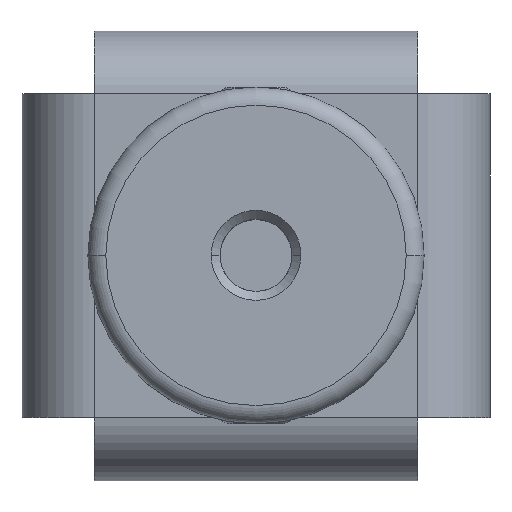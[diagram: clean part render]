
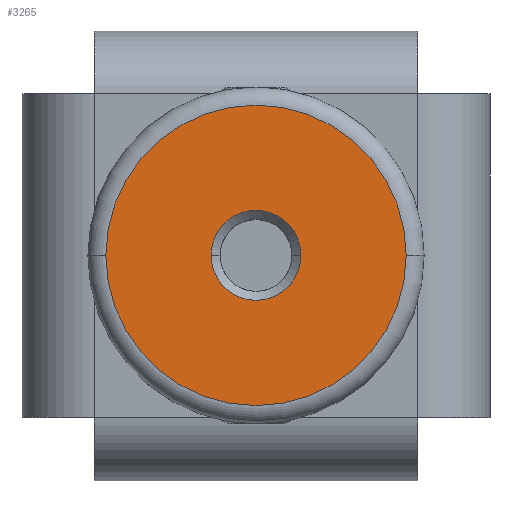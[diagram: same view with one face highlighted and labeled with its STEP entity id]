
A CAD part, top view. The second image highlights one B-rep face of the part: STEP entity #3265.
In plain terms, the highlighted planar face has unit normal (0, 0, 1).
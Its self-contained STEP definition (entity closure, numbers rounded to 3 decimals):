
#822 = DIRECTION ( 'NONE',  ( 1., 0., 0. ) ) ;
#824 = DIRECTION ( 'NONE',  ( 0., 0., -1. ) ) ;
#830 = CARTESIAN_POINT ( 'NONE',  ( 0., 0., 14. ) ) ;
#834 = PLANE ( 'NONE',  #2348 ) ;
#1068 = CIRCLE ( 'NONE', #2374, 8.35 ) ;
#1088 = FACE_BOUND ( 'NONE', #1597, .T. ) ;
#1209 = FACE_OUTER_BOUND ( 'NONE', #1696, .T. ) ;
#1440 = CIRCLE ( 'NONE', #2375, 2.5 ) ;
#1530 = CIRCLE ( 'NONE', #2421, 8.35 ) ;
#1544 = CIRCLE ( 'NONE', #2449, 2.5 ) ;
#1597 = EDGE_LOOP ( 'NONE', ( #3564, #3550 ) ) ;
#1696 = EDGE_LOOP ( 'NONE', ( #3382, #3532 ) ) ;
#1726 = VERTEX_POINT ( 'NONE', #3680 ) ;
#1833 = VERTEX_POINT ( 'NONE', #3658 ) ;
#1842 = VERTEX_POINT ( 'NONE', #3746 ) ;
#1940 = VERTEX_POINT ( 'NONE', #2958 ) ;
#2348 = AXIS2_PLACEMENT_3D ( 'NONE', #830, #824, #822 ) ;
#2374 = AXIS2_PLACEMENT_3D ( 'NONE', #4134, #4133, #4132 ) ;
#2375 = AXIS2_PLACEMENT_3D ( 'NONE', #4137, #4136, #4135 ) ;
#2421 = AXIS2_PLACEMENT_3D ( 'NONE', #3210, #3209, #3208 ) ;
#2449 = AXIS2_PLACEMENT_3D ( 'NONE', #3219, #3230, #2792 ) ;
#2514 = EDGE_CURVE ( 'NONE', #1940, #1833, #1544, .T. ) ;
#2559 = EDGE_CURVE ( 'NONE', #1842, #1726, #1530, .T. ) ;
#2705 = EDGE_CURVE ( 'NONE', #1833, #1940, #1440, .T. ) ;
#2706 = EDGE_CURVE ( 'NONE', #1726, #1842, #1068, .T. ) ;
#2792 = DIRECTION ( 'NONE',  ( -1., 0., 0. ) ) ;
#2958 = CARTESIAN_POINT ( 'NONE',  ( 2.5, 0., 14. ) ) ;
#3208 = DIRECTION ( 'NONE',  ( 1., 0., 0. ) ) ;
#3209 = DIRECTION ( 'NONE',  ( 0., 0., -1. ) ) ;
#3210 = CARTESIAN_POINT ( 'NONE',  ( 0., 0., 14. ) ) ;
#3219 = CARTESIAN_POINT ( 'NONE',  ( 0., 0., 14. ) ) ;
#3230 = DIRECTION ( 'NONE',  ( 0., 0., -1. ) ) ;
#3265 = ADVANCED_FACE ( 'NONE', ( #1088, #1209 ), #834, .F. ) ;
#3382 = ORIENTED_EDGE ( 'NONE', *, *, #2559, .F. ) ;
#3532 = ORIENTED_EDGE ( 'NONE', *, *, #2706, .F. ) ;
#3550 = ORIENTED_EDGE ( 'NONE', *, *, #2705, .T. ) ;
#3564 = ORIENTED_EDGE ( 'NONE', *, *, #2514, .T. ) ;
#3658 = CARTESIAN_POINT ( 'NONE',  ( -2.5, 0., 14. ) ) ;
#3680 = CARTESIAN_POINT ( 'NONE',  ( -8.35, 0., 14. ) ) ;
#3746 = CARTESIAN_POINT ( 'NONE',  ( 8.35, 0., 14. ) ) ;
#4132 = DIRECTION ( 'NONE',  ( 1., 0., 0. ) ) ;
#4133 = DIRECTION ( 'NONE',  ( 0., 0., -1. ) ) ;
#4134 = CARTESIAN_POINT ( 'NONE',  ( 0., 0., 14. ) ) ;
#4135 = DIRECTION ( 'NONE',  ( -1., 0., 0. ) ) ;
#4136 = DIRECTION ( 'NONE',  ( 0., 0., -1. ) ) ;
#4137 = CARTESIAN_POINT ( 'NONE',  ( 0., 0., 14. ) ) ;
